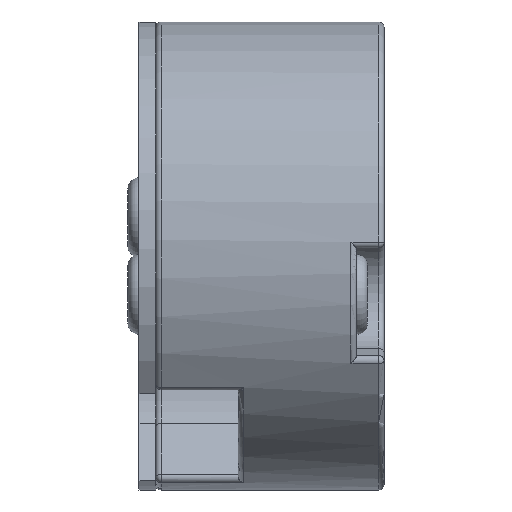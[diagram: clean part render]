
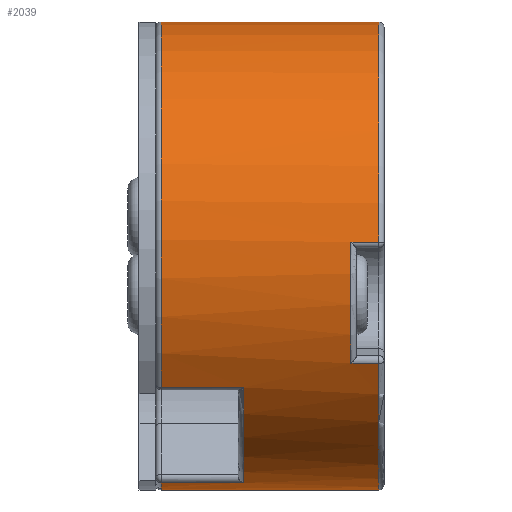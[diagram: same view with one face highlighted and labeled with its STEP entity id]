
A CAD part, left-side view. The second image highlights one B-rep face of the part: STEP entity #2039.
In plain terms, the highlighted cylindrical face has radius 8.5 mm (diameter 17 mm), a partial arc.
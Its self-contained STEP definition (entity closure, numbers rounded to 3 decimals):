
#28 = DIRECTION ( 'NONE',  ( 0., 1., 0. ) ) ;
#53 = DIRECTION ( 'NONE',  ( 0., -1., 0. ) ) ;
#132 = LINE ( 'NONE', #4859, #4025 ) ;
#137 = CARTESIAN_POINT ( 'NONE',  ( -8.485, 0.2, 0.503 ) ) ;
#187 = VERTEX_POINT ( 'NONE', #2355 ) ;
#199 = AXIS2_PLACEMENT_3D ( 'NONE', #3030, #792, #3424 ) ;
#211 = LINE ( 'NONE', #2328, #3095 ) ;
#270 = DIRECTION ( 'NONE',  ( 0., 0., -1. ) ) ;
#310 = AXIS2_PLACEMENT_3D ( 'NONE', #4377, #2107, #4746 ) ;
#357 = CARTESIAN_POINT ( 'NONE',  ( -2.082, 5.1, -8.241 ) ) ;
#386 = AXIS2_PLACEMENT_3D ( 'NONE', #1003, #3255, #1398 ) ;
#398 = VERTEX_POINT ( 'NONE', #4194 ) ;
#437 = CARTESIAN_POINT ( 'NONE',  ( -7.032, 8.3, -4.775 ) ) ;
#587 = EDGE_CURVE ( 'NONE', #3640, #4873, #875, .T. ) ;
#591 = VECTOR ( 'NONE', #2512, 1000. ) ;
#645 = EDGE_CURVE ( 'NONE', #841, #187, #3519, .T. ) ;
#653 = LINE ( 'NONE', #437, #2529 ) ;
#695 = DIRECTION ( 'NONE',  ( 0., 1., 0. ) ) ;
#726 = VERTEX_POINT ( 'NONE', #4852 ) ;
#792 = DIRECTION ( 'NONE',  ( 0., -1., 0. ) ) ;
#826 = DIRECTION ( 'NONE',  ( 0., -1., 0. ) ) ;
#841 = VERTEX_POINT ( 'NONE', #2627 ) ;
#875 = LINE ( 'NONE', #1157, #3627 ) ;
#906 = CARTESIAN_POINT ( 'NONE',  ( 0., 0.2, 8.5 ) ) ;
#1003 = CARTESIAN_POINT ( 'NONE',  ( 0., 8.3, 0. ) ) ;
#1053 = EDGE_CURVE ( 'NONE', #2938, #841, #4689, .T. ) ;
#1083 = CARTESIAN_POINT ( 'NONE',  ( -7.032, 8.1, -4.775 ) ) ;
#1131 = AXIS2_PLACEMENT_3D ( 'NONE', #4139, #1890, #4528 ) ;
#1157 = CARTESIAN_POINT ( 'NONE',  ( 0., 8.3, 8.5 ) ) ;
#1262 = ORIENTED_EDGE ( 'NONE', *, *, #3940, .T. ) ;
#1326 = ORIENTED_EDGE ( 'NONE', *, *, #1053, .T. ) ;
#1330 = AXIS2_PLACEMENT_3D ( 'NONE', #2930, #695, #3323 ) ;
#1398 = DIRECTION ( 'NONE',  ( 0., 0., -1. ) ) ;
#1415 = EDGE_CURVE ( 'NONE', #4197, #2938, #132, .T. ) ;
#1472 = EDGE_CURVE ( 'NONE', #2697, #4873, #2895, .T. ) ;
#1525 = CIRCLE ( 'NONE', #1330, 8.5 ) ;
#1538 = DIRECTION ( 'NONE',  ( 0., -1., 0. ) ) ;
#1582 = ORIENTED_EDGE ( 'NONE', *, *, #3847, .T. ) ;
#1588 = ORIENTED_EDGE ( 'NONE', *, *, #3244, .T. ) ;
#1607 = FACE_OUTER_BOUND ( 'NONE', #2537, .T. ) ;
#1676 = DIRECTION ( 'NONE',  ( 0., -1., 0. ) ) ;
#1736 = ORIENTED_EDGE ( 'NONE', *, *, #645, .T. ) ;
#1890 = DIRECTION ( 'NONE',  ( 0., 1., 0. ) ) ;
#2039 = ADVANCED_FACE ( 'NONE', ( #1607 ), #3468, .T. ) ;
#2046 = EDGE_CURVE ( 'NONE', #2404, #3559, #4485, .T. ) ;
#2107 = DIRECTION ( 'NONE',  ( 0., 1., 0. ) ) ;
#2183 = ORIENTED_EDGE ( 'NONE', *, *, #4727, .T. ) ;
#2285 = VECTOR ( 'NONE', #28, 1000. ) ;
#2328 = CARTESIAN_POINT ( 'NONE',  ( -8.485, 8.3, 0.503 ) ) ;
#2355 = CARTESIAN_POINT ( 'NONE',  ( -7.55, 1.2, -3.905 ) ) ;
#2404 = VERTEX_POINT ( 'NONE', #357 ) ;
#2512 = DIRECTION ( 'NONE',  ( 0., 1., 0. ) ) ;
#2529 = VECTOR ( 'NONE', #826, 1000. ) ;
#2536 = DIRECTION ( 'NONE',  ( 0., -1., 0. ) ) ;
#2537 = EDGE_LOOP ( 'NONE', ( #4542, #3987, #3882, #1588, #3842, #1262, #2919, #1326, #1736, #1582, #2183, #4191 ) ) ;
#2594 = DIRECTION ( 'NONE',  ( 0., -1., 0. ) ) ;
#2627 = CARTESIAN_POINT ( 'NONE',  ( -7.55, 0.2, -3.905 ) ) ;
#2697 = VERTEX_POINT ( 'NONE', #137 ) ;
#2739 = CIRCLE ( 'NONE', #3957, 8.5 ) ;
#2791 = CARTESIAN_POINT ( 'NONE',  ( 0., 8.1, 8.5 ) ) ;
#2895 = CIRCLE ( 'NONE', #1131, 8.5 ) ;
#2919 = ORIENTED_EDGE ( 'NONE', *, *, #1415, .T. ) ;
#2930 = CARTESIAN_POINT ( 'NONE',  ( 0., 1.2, 0. ) ) ;
#2938 = VERTEX_POINT ( 'NONE', #3425 ) ;
#2957 = EDGE_CURVE ( 'NONE', #4266, #398, #653, .T. ) ;
#3030 = CARTESIAN_POINT ( 'NONE',  ( 0., 8.1, 0. ) ) ;
#3095 = VECTOR ( 'NONE', #53, 1000. ) ;
#3244 = EDGE_CURVE ( 'NONE', #398, #2404, #3350, .T. ) ;
#3255 = DIRECTION ( 'NONE',  ( 0., -1., 0. ) ) ;
#3273 = CARTESIAN_POINT ( 'NONE',  ( -2.082, 8.3, -8.241 ) ) ;
#3323 = DIRECTION ( 'NONE',  ( 0., 0., -1. ) ) ;
#3350 = CIRCLE ( 'NONE', #4106, 8.5 ) ;
#3424 = DIRECTION ( 'NONE',  ( 0., 0., 1. ) ) ;
#3425 = CARTESIAN_POINT ( 'NONE',  ( 0., 0.2, -8.5 ) ) ;
#3437 = CARTESIAN_POINT ( 'NONE',  ( -7.55, 8.3, -3.905 ) ) ;
#3468 = CYLINDRICAL_SURFACE ( 'NONE', #386, 8.5 ) ;
#3477 = CARTESIAN_POINT ( 'NONE',  ( -2.082, 8.1, -8.241 ) ) ;
#3519 = LINE ( 'NONE', #3437, #2285 ) ;
#3559 = VERTEX_POINT ( 'NONE', #3477 ) ;
#3627 = VECTOR ( 'NONE', #1538, 1000. ) ;
#3640 = VERTEX_POINT ( 'NONE', #2791 ) ;
#3790 = CIRCLE ( 'NONE', #199, 8.5 ) ;
#3842 = ORIENTED_EDGE ( 'NONE', *, *, #2046, .T. ) ;
#3847 = EDGE_CURVE ( 'NONE', #187, #726, #1525, .T. ) ;
#3882 = ORIENTED_EDGE ( 'NONE', *, *, #2957, .T. ) ;
#3905 = CARTESIAN_POINT ( 'NONE',  ( 0., 8.1, 0. ) ) ;
#3940 = EDGE_CURVE ( 'NONE', #3559, #4197, #3790, .T. ) ;
#3957 = AXIS2_PLACEMENT_3D ( 'NONE', #3905, #1676, #4299 ) ;
#3987 = ORIENTED_EDGE ( 'NONE', *, *, #4847, .T. ) ;
#3994 = CARTESIAN_POINT ( 'NONE',  ( 0., 8.1, -8.5 ) ) ;
#4025 = VECTOR ( 'NONE', #2594, 1000. ) ;
#4106 = AXIS2_PLACEMENT_3D ( 'NONE', #4799, #2536, #270 ) ;
#4139 = CARTESIAN_POINT ( 'NONE',  ( 0., 0.2, 0. ) ) ;
#4191 = ORIENTED_EDGE ( 'NONE', *, *, #1472, .T. ) ;
#4194 = CARTESIAN_POINT ( 'NONE',  ( -7.032, 5.1, -4.775 ) ) ;
#4197 = VERTEX_POINT ( 'NONE', #3994 ) ;
#4266 = VERTEX_POINT ( 'NONE', #1083 ) ;
#4299 = DIRECTION ( 'NONE',  ( 0., 0., 1. ) ) ;
#4377 = CARTESIAN_POINT ( 'NONE',  ( 0., 0.2, 0. ) ) ;
#4485 = LINE ( 'NONE', #3273, #591 ) ;
#4528 = DIRECTION ( 'NONE',  ( 0., 0., 1. ) ) ;
#4542 = ORIENTED_EDGE ( 'NONE', *, *, #587, .F. ) ;
#4689 = CIRCLE ( 'NONE', #310, 8.5 ) ;
#4727 = EDGE_CURVE ( 'NONE', #726, #2697, #211, .T. ) ;
#4746 = DIRECTION ( 'NONE',  ( 0., 0., 1. ) ) ;
#4799 = CARTESIAN_POINT ( 'NONE',  ( 0., 5.1, 0. ) ) ;
#4847 = EDGE_CURVE ( 'NONE', #3640, #4266, #2739, .T. ) ;
#4852 = CARTESIAN_POINT ( 'NONE',  ( -8.485, 1.2, 0.503 ) ) ;
#4859 = CARTESIAN_POINT ( 'NONE',  ( 0., 8.3, -8.5 ) ) ;
#4873 = VERTEX_POINT ( 'NONE', #906 ) ;
